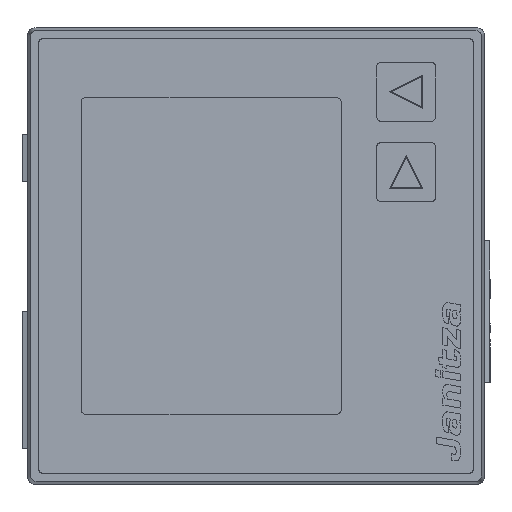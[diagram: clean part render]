
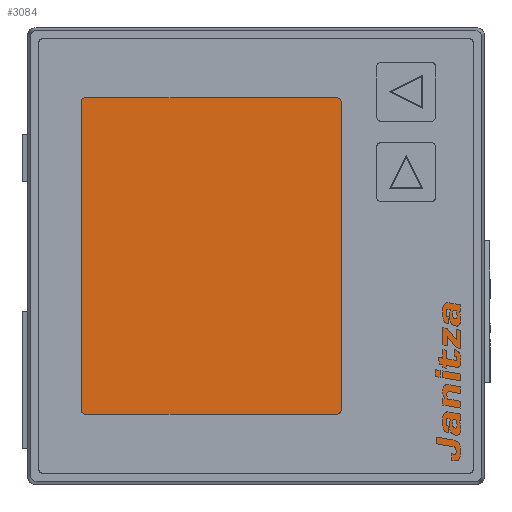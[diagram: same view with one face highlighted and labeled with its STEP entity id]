
A CAD part, top view. The second image highlights one B-rep face of the part: STEP entity #3084.
In plain terms, the highlighted planar face has unit normal (0, 0, 1).
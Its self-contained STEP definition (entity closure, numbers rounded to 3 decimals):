
#2818=CARTESIAN_POINT('',(46.,-45.,63.4));
#2819=VERTEX_POINT('',#2818);
#2820=CARTESIAN_POINT('',(46.,45.,63.4));
#2821=VERTEX_POINT('',#2820);
#2822=CARTESIAN_POINT('',(46.,-45.,63.4));
#2823=DIRECTION('',(0.0,1.0,0.0));
#2824=VECTOR('',#2823,90.);
#2825=LINE('',#2822,#2824);
#2826=EDGE_CURVE('',#2819,#2821,#2825,.T.);
#2858=CARTESIAN_POINT('',(45.,46.,63.4));
#2859=VERTEX_POINT('',#2858);
#2860=CARTESIAN_POINT('',(45.,45.,63.4));
#2861=DIRECTION('',(0.0,0.0,1.0));
#2862=DIRECTION('',(1.0,0.0,0.0));
#2863=AXIS2_PLACEMENT_3D('',#2860,#2861,#2862);
#2864=CIRCLE('',#2863,1.);
#2865=EDGE_CURVE('',#2821,#2859,#2864,.T.);
#2891=CARTESIAN_POINT('',(-45.,46.0,63.4));
#2892=VERTEX_POINT('',#2891);
#2893=CARTESIAN_POINT('',(45.,46.,63.4));
#2894=DIRECTION('',(-1.0,0.0,0.0));
#2895=VECTOR('',#2894,90.);
#2896=LINE('',#2893,#2895);
#2897=EDGE_CURVE('',#2859,#2892,#2896,.T.);
#2922=CARTESIAN_POINT('',(-46.,45.,63.4));
#2923=VERTEX_POINT('',#2922);
#2924=CARTESIAN_POINT('',(-45.,45.0,63.4));
#2925=DIRECTION('',(0.0,0.0,1.0));
#2926=DIRECTION('',(0.0,1.0,0.0));
#2927=AXIS2_PLACEMENT_3D('',#2924,#2925,#2926);
#2928=CIRCLE('',#2927,1.);
#2929=EDGE_CURVE('',#2892,#2923,#2928,.T.);
#2955=CARTESIAN_POINT('',(-46.,-45.,63.4));
#2956=VERTEX_POINT('',#2955);
#2957=CARTESIAN_POINT('',(-46.,45.,63.4));
#2958=DIRECTION('',(0.0,-1.0,0.0));
#2959=VECTOR('',#2958,90.);
#2960=LINE('',#2957,#2959);
#2961=EDGE_CURVE('',#2923,#2956,#2960,.T.);
#2986=CARTESIAN_POINT('',(-45.,-46.,63.4));
#2987=VERTEX_POINT('',#2986);
#2988=CARTESIAN_POINT('',(-45.,-45.,63.4));
#2989=DIRECTION('',(0.0,0.0,1.0));
#2990=DIRECTION('',(-1.0,0.0,0.0));
#2991=AXIS2_PLACEMENT_3D('',#2988,#2989,#2990);
#2992=CIRCLE('',#2991,1.);
#2993=EDGE_CURVE('',#2956,#2987,#2992,.T.);
#3019=CARTESIAN_POINT('',(45.,-46.,63.4));
#3020=VERTEX_POINT('',#3019);
#3021=CARTESIAN_POINT('',(-45.,-46.,63.4));
#3022=DIRECTION('',(1.0,0.0,0.0));
#3023=VECTOR('',#3022,90.);
#3024=LINE('',#3021,#3023);
#3025=EDGE_CURVE('',#2987,#3020,#3024,.T.);
#3050=CARTESIAN_POINT('',(45.,-45.,63.4));
#3051=DIRECTION('',(0.0,0.0,1.0));
#3052=DIRECTION('',(0.0,-1.0,0.0));
#3053=AXIS2_PLACEMENT_3D('',#3050,#3051,#3052);
#3054=CIRCLE('',#3053,1.0);
#3055=EDGE_CURVE('',#3020,#2819,#3054,.T.);
#3069=CARTESIAN_POINT('',(0.,0.,63.4));
#3070=DIRECTION('',(0.0,0.0,1.0));
#3071=DIRECTION('',(1.0,0.0,0.0));
#3072=AXIS2_PLACEMENT_3D('',#3069,#3070,#3071);
#3073=PLANE('',#3072);
#3074=ORIENTED_EDGE('',*,*,#2826,.T.);
#3075=ORIENTED_EDGE('',*,*,#2865,.T.);
#3076=ORIENTED_EDGE('',*,*,#2897,.T.);
#3077=ORIENTED_EDGE('',*,*,#2929,.T.);
#3078=ORIENTED_EDGE('',*,*,#2961,.T.);
#3079=ORIENTED_EDGE('',*,*,#2993,.T.);
#3080=ORIENTED_EDGE('',*,*,#3025,.T.);
#3081=ORIENTED_EDGE('',*,*,#3055,.T.);
#3082=EDGE_LOOP('',(#3074,#3075,#3076,#3077,#3078,#3079,#3080,#3081));
#3083=FACE_OUTER_BOUND('',#3082,.T.);
#3084=ADVANCED_FACE('',(#3083),#3073,.T.);
